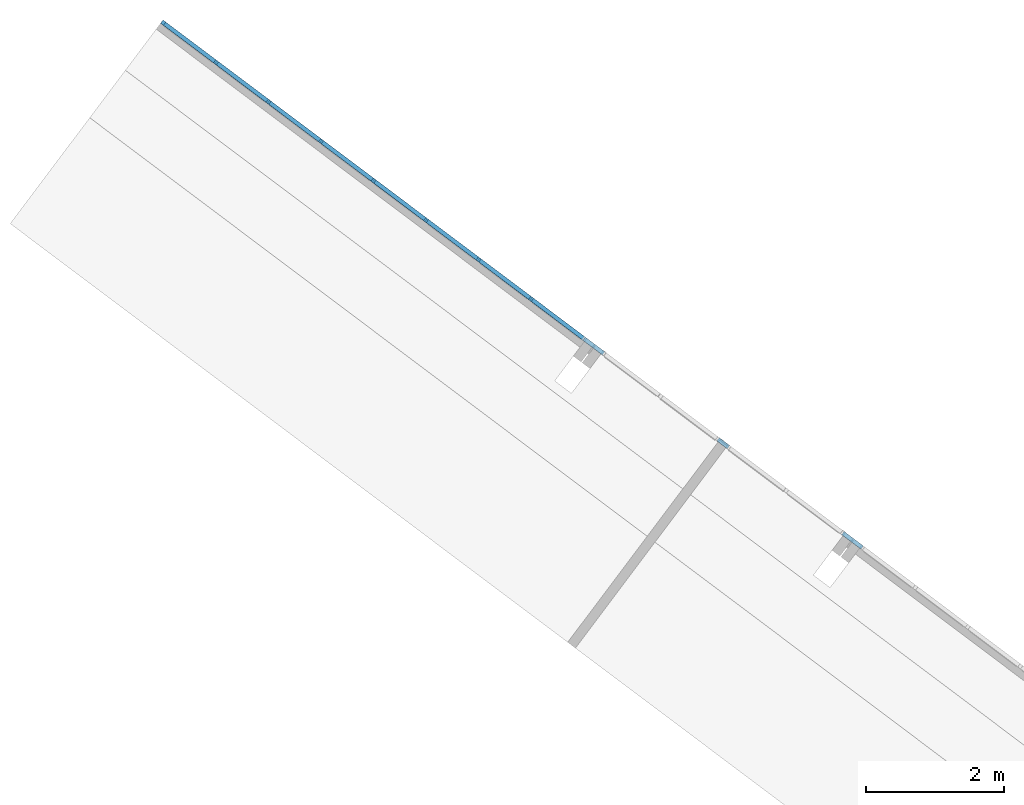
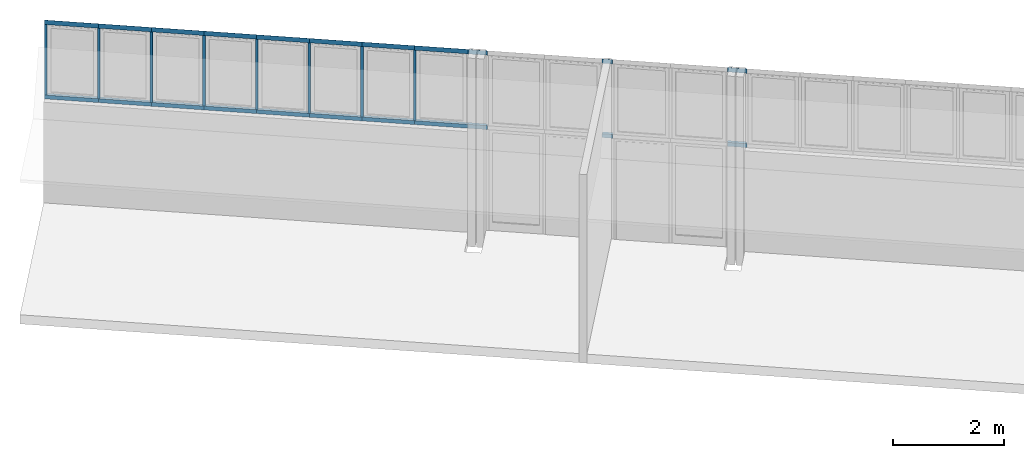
# One storey, part 3 of 18: 30 members, 1 element without a shape of its own.
"""IFC2X3 building model written with IfcOpenShell, lengths in metres."""

from ifc_helpers import new_model, entity, si_unit, converted_unit, derived_unit, direction, frame, frame_2d, origin, origin_2d_with_axis, place, context, subcontext, project, spatial, polyline, rectangle, outline, extrude, source, transform, mapped, material, type_object, type_shapes, element, aggregate, save


model = new_model("IFC2X3")

# Units and contexts
model_context = context("Model", 3, precision=1e-05, world=origin(), true_north=direction((6.123031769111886e-17, 1.0)))
body_context = subcontext(model_context, "Body", "Model", "MODEL_VIEW")
ifc_project = project(units=[si_unit("LENGTHUNIT", "METRE"), si_unit("AREAUNIT", "SQUARE_METRE"), si_unit("VOLUMEUNIT", "CUBIC_METRE"), converted_unit("PLANEANGLEUNIT", "DEGREE", entity("IfcRatioMeasure", 0.017453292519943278), si_unit("PLANEANGLEUNIT", "RADIAN"), dimensions=[0, 0, 0, 0, 0, 0, 0]), si_unit("MASSUNIT", "GRAM", prefix="KILO"), derived_unit("MASSDENSITYUNIT", [(si_unit("MASSUNIT", "GRAM", prefix="KILO"), 1), (si_unit("LENGTHUNIT", "METRE"), -3)]), derived_unit("IONCONCENTRATIONUNIT", [(si_unit("MASSUNIT", "GRAM", prefix="KILO"), 1), (si_unit("LENGTHUNIT", "METRE"), -3)]), derived_unit("MOMENTOFINERTIAUNIT", [(si_unit("LENGTHUNIT", "METRE"), 4)]), si_unit("TIMEUNIT", "SECOND"), si_unit("FREQUENCYUNIT", "HERTZ"), si_unit("THERMODYNAMICTEMPERATUREUNIT", "DEGREE_CELSIUS"), derived_unit("THERMALTRANSMITTANCEUNIT", [(si_unit("MASSUNIT", "GRAM", prefix="KILO"), 1), (si_unit("THERMODYNAMICTEMPERATUREUNIT", "KELVIN"), -1), (si_unit("TIMEUNIT", "SECOND"), -3)]), derived_unit("THERMALCONDUCTANCEUNIT", [(si_unit("MASSUNIT", "GRAM", prefix="KILO"), 1), (si_unit("THERMODYNAMICTEMPERATUREUNIT", "KELVIN"), -1), (si_unit("TIMEUNIT", "SECOND"), -3), (si_unit("LENGTHUNIT", "METRE"), 1)]), derived_unit("VOLUMETRICFLOWRATEUNIT", [(si_unit("LENGTHUNIT", "METRE"), 3), (si_unit("TIMEUNIT", "SECOND"), -1)]), derived_unit("MASSFLOWRATEUNIT", [(si_unit("MASSUNIT", "GRAM", prefix="KILO"), 1), (si_unit("TIMEUNIT", "SECOND"), -1)]), derived_unit("ROTATIONALFREQUENCYUNIT", [(si_unit("TIMEUNIT", "SECOND"), -1)]), si_unit("ELECTRICCURRENTUNIT", "AMPERE"), si_unit("ELECTRICVOLTAGEUNIT", "VOLT"), si_unit("POWERUNIT", "WATT"), si_unit("FORCEUNIT", "NEWTON", prefix="KILO"), si_unit("ILLUMINANCEUNIT", "LUX"), si_unit("LUMINOUSFLUXUNIT", "LUMEN"), si_unit("LUMINOUSINTENSITYUNIT", "CANDELA"), derived_unit("USERDEFINED", [(si_unit("MASSUNIT", "GRAM", prefix="KILO"), -1), (si_unit("LENGTHUNIT", "METRE"), -2), (si_unit("TIMEUNIT", "SECOND"), 3), (si_unit("LUMINOUSFLUXUNIT", "LUMEN"), 1)]), derived_unit("USERDEFINED", [(si_unit("MASSUNIT", "GRAM", prefix="KILO"), 1), (si_unit("TIMEUNIT", "SECOND"), -3), (si_unit("LENGTHUNIT", "METRE"), 3), (si_unit("ELECTRICCURRENTUNIT", "AMPERE"), -2)]), derived_unit("SOUNDPOWERUNIT", [(si_unit("MASSUNIT", "GRAM", prefix="KILO"), 1), (si_unit("TIMEUNIT", "SECOND"), -3), (si_unit("LENGTHUNIT", "METRE"), 2)]), derived_unit("SOUNDPRESSUREUNIT", [(si_unit("MASSUNIT", "GRAM", prefix="KILO"), 1), (si_unit("LENGTHUNIT", "METRE"), -1), (si_unit("TIMEUNIT", "SECOND"), -2)]), derived_unit("LINEARVELOCITYUNIT", [(si_unit("LENGTHUNIT", "METRE"), 1), (si_unit("TIMEUNIT", "SECOND"), -1)]), si_unit("PRESSUREUNIT", "PASCAL"), derived_unit("USERDEFINED", [(si_unit("MASSUNIT", "GRAM", prefix="KILO"), 1), (si_unit("LENGTHUNIT", "METRE"), -2), (si_unit("TIMEUNIT", "SECOND"), -2)]), derived_unit("LINEARFORCEUNIT", [(si_unit("MASSUNIT", "GRAM", prefix="KILO"), 1), (si_unit("TIMEUNIT", "SECOND"), -2)]), derived_unit("PLANARFORCEUNIT", [(si_unit("MASSUNIT", "GRAM", prefix="KILO"), 1), (si_unit("LENGTHUNIT", "METRE"), -1), (si_unit("TIMEUNIT", "SECOND"), -2)]), derived_unit("SPECIFICHEATCAPACITYUNIT", [(si_unit("THERMODYNAMICTEMPERATUREUNIT", "KELVIN"), -1), (si_unit("LENGTHUNIT", "METRE"), 2), (si_unit("TIMEUNIT", "SECOND"), -2)]), derived_unit("HEATINGVALUEUNIT", [(si_unit("LENGTHUNIT", "METRE"), 2), (si_unit("TIMEUNIT", "SECOND"), -2)]), derived_unit("VAPORPERMEABILITYUNIT", [(si_unit("LENGTHUNIT", "METRE"), -1), (si_unit("TIMEUNIT", "SECOND"), 1)]), derived_unit("DYNAMICVISCOSITYUNIT", [(si_unit("MASSUNIT", "GRAM", prefix="KILO"), 1), (si_unit("TIMEUNIT", "SECOND"), -1), (si_unit("LENGTHUNIT", "METRE"), -1)]), derived_unit("THERMALEXPANSIONCOEFFICIENTUNIT", [(si_unit("THERMODYNAMICTEMPERATUREUNIT", "KELVIN"), -1)]), derived_unit("MODULUSOFELASTICITYUNIT", [(si_unit("MASSUNIT", "GRAM", prefix="KILO"), 1), (si_unit("LENGTHUNIT", "METRE"), -1), (si_unit("TIMEUNIT", "SECOND"), -2)]), derived_unit("ISOTHERMALMOISTURECAPACITYUNIT", [(si_unit("LENGTHUNIT", "METRE"), 3), (si_unit("MASSUNIT", "GRAM", prefix="KILO"), -1)]), derived_unit("MOISTUREDIFFUSIVITYUNIT", [(si_unit("TIMEUNIT", "SECOND"), -1), (si_unit("LENGTHUNIT", "METRE"), 2)])], contexts=[model_context])

# Site, building, storey
site_placement = place(None, frame((0.0, 0.0, 235.0), z_axis=(0.0, 0.0, 1.0), x_axis=(-0.7996477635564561, 0.6004693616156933, 0.0)))
site = spatial("IfcSite", under=ifc_project, at=site_placement, Name="Default", CompositionType="ELEMENT")
building_placement = place(site_placement, origin())
building = spatial("IfcBuilding", under=site, at=building_placement, CompositionType="ELEMENT")
storey_placement = place(building_placement, frame((0.0, 0.0, -4.459999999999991)))
storey = spatial("IfcBuildingStorey", under=building, at=storey_placement, Name="PS1- Vestuari", CompositionType="ELEMENT", Elevation=-4.459999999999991)

# Curtain wall, members
curtain_wall_type = type_object("IfcCurtainWallType", Name="Muro cortina:MC- EXT- AL6", PredefinedType="NOTDEFINED")
curtain_wall_placement = place(storey_placement, frame((0.0, 0.0, 4.459999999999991)))
curtain_wall = element("IfcCurtainWall", 1, at=curtain_wall_placement, inside=storey, type_object=curtain_wall_type, Name="Muro cortina:MC- EXT- AL6", ObjectType="Muro cortina:MC- EXT- AL6")
ifc_material = material(Name="_Alumini- T1- Perfil")
member_type_1 = type_object("IfcMemberType", Name="Montante rectangular:MC- Alu- 140x52,5 cm- Fa pista- Superior", PredefinedType="MULLION", material=ifc_material)
shared_shape_1 = source(origin(), body_context, "Body", "SweptSolid", [
    extrude(outline(polyline([(-0.03933333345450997, -0.04916666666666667), (0.02066666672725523, -0.04916666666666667), (0.020666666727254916, 0.048333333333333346), (0.018666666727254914, 0.04833333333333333), (0.018666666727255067, 0.00083333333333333), (-0.03933333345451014, 0.00083333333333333), (-0.03933333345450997, -0.04916666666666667)])), frame((-0.048333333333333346, -0.03933333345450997, -0.9850000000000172), z_axis=(0.0, 0.0, 1.0), x_axis=(0.0, -1.0, 0.0)), (0.0, 0.0, 1.0), 0.9850000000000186),
])
type_shapes(member_type_1, [shared_shape_1])
member_1_placement = place(curtain_wall_placement, frame((74.44514768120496, -40.46519175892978, -0.5199999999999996), z_axis=(1.0, 0.0, 0.0), x_axis=(0.0, 0.0, 1.0)))
member_1 = element("IfcMember", 2, at=member_1_placement, type_object=member_type_1, material=ifc_material, Name="Montante rectangular:MC- Alu- 140x52,5 cm- Fa pista- Superior", ObjectType="Montante rectangular:MC- Alu- 140x52,5 cm- Fa pista- Superior", context=body_context, shape_type="MappedRepresentation", body=[
    mapped(shared_shape_1, transform((0.0, 0.0, 0.0), scale=1.0)),
])
member_type_2 = type_object("IfcMemberType", Name="Montante rectangular:MC- Alu- 140x52,5 cm- Fa pista- Superior", PredefinedType="MULLION", material=ifc_material)
shared_shape_2 = source(origin(), body_context, "Body", "SweptSolid", [
    extrude(outline(polyline([(-0.03933333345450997, -0.04916666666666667), (0.02066666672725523, -0.04916666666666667), (0.020666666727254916, 0.048333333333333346), (0.018666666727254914, 0.04833333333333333), (0.018666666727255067, 0.00083333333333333), (-0.03933333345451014, 0.00083333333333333), (-0.03933333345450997, -0.04916666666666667)])), frame((-0.048333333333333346, -0.03933333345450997, -0.9659999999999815), z_axis=(0.0, 0.0, 1.0), x_axis=(0.0, -1.0, 0.0)), (0.0, 0.0, 1.0), 0.9659999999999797),
])
type_shapes(member_type_2, [shared_shape_2])
member_2_placement = place(curtain_wall_placement, frame((67.73614768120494, -40.46519175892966, -0.5199999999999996), z_axis=(1.0, 0.0, 0.0), x_axis=(0.0, 0.0, 1.0)))
member_2 = element("IfcMember", 3, at=member_2_placement, type_object=member_type_2, material=ifc_material, Name="Montante rectangular:MC- Alu- 140x52,5 cm- Fa pista- Superior", ObjectType="Montante rectangular:MC- Alu- 140x52,5 cm- Fa pista- Superior", context=body_context, shape_type="MappedRepresentation", body=[
    mapped(shared_shape_2, transform((0.0, 0.0, 0.0), scale=1.0)),
])
member_type_3 = type_object("IfcMemberType", Name="Montante rectangular:MC- Alu- 50x60 cm- Fa pista- Centre", PredefinedType="MULLION", material=ifc_material)
shared_shape_3 = source(origin(), body_context, "Body", "SweptSolid", [
    extrude(rectangle(XDim=0.0600000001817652, YDim=0.05, at=frame_2d((8.673617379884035e-18, 0.0), x_axis=(1.0, 0.0))), frame((0.0, -0.030000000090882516, -1.5474999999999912), z_axis=(0.0, 0.0, 1.0), x_axis=(0.0, -1.0, 0.0)), (0.0, 0.0, 1.0), 1.5474999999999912),
])
type_shapes(member_type_3, [shared_shape_3])
member_3_placement = place(curtain_wall_placement, frame((67.73614768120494, -40.465191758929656, -2.1649999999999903), z_axis=(0.0, 0.0, -1.0), x_axis=(1.0, 0.0, 0.0)))
member_3 = element("IfcMember", 4, at=member_3_placement, type_object=member_type_3, material=ifc_material, Name="Montante rectangular:MC- Alu- 50x60 cm- Fa pista- Centre", ObjectType="Montante rectangular:MC- Alu- 50x60 cm- Fa pista- Centre", context=body_context, shape_type="MappedRepresentation", body=[
    mapped(shared_shape_3, transform((0.0, 0.0, 0.0), scale=1.0)),
])
member_4_placement = place(curtain_wall_placement, frame((68.69014768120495, -40.46519175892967, -2.1649999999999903), z_axis=(0.0, 0.0, -1.0), x_axis=(1.0, 0.0, 0.0)))
member_4 = element("IfcMember", 5, at=member_4_placement, type_object=member_type_3, material=ifc_material, Name="Montante rectangular:MC- Alu- 50x60 cm- Fa pista- Centre", ObjectType="Montante rectangular:MC- Alu- 50x60 cm- Fa pista- Centre", context=body_context, shape_type="MappedRepresentation", body=[
    mapped(shared_shape_3, transform((0.0, 0.0, 0.0), scale=1.0)),
])
member_5_placement = place(curtain_wall_placement, frame((69.64414768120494, -40.465191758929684, -2.1649999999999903), z_axis=(0.0, 0.0, -1.0), x_axis=(1.0, 0.0, 0.0)))
member_5 = element("IfcMember", 6, at=member_5_placement, type_object=member_type_3, material=ifc_material, Name="Montante rectangular:MC- Alu- 50x60 cm- Fa pista- Centre", ObjectType="Montante rectangular:MC- Alu- 50x60 cm- Fa pista- Centre", context=body_context, shape_type="MappedRepresentation", body=[
    mapped(shared_shape_3, transform((0.0, 0.0, 0.0), scale=1.0)),
])
member_type_4 = type_object("IfcMemberType", Name="Montante rectangular:MC- Alu- 140x52,5 cm- Fa pista- Superior", PredefinedType="MULLION", material=ifc_material)
shared_shape_4 = source(origin(), body_context, "Body", "SweptSolid", [
    extrude(outline(polyline([(-0.03933333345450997, -0.04916666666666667), (0.02066666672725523, -0.04916666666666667), (0.020666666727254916, 0.048333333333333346), (0.018666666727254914, 0.04833333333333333), (0.018666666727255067, 0.00083333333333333), (-0.03933333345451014, 0.00083333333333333), (-0.03933333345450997, -0.04916666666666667)])), frame((-0.048333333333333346, -0.03933333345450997, -0.9540000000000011), z_axis=(0.0, 0.0, 1.0), x_axis=(0.0, -1.0, 0.0)), (0.0, 0.0, 1.0), 0.9539999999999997),
])
type_shapes(member_type_4, [shared_shape_4])
member_6_placement = place(curtain_wall_placement, frame((68.69014768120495, -40.46519175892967, -0.5199999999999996), z_axis=(1.0, 0.0, 0.0), x_axis=(0.0, 0.0, 1.0)))
member_6 = element("IfcMember", 7, at=member_6_placement, type_object=member_type_4, material=ifc_material, Name="Montante rectangular:MC- Alu- 140x52,5 cm- Fa pista- Superior", ObjectType="Montante rectangular:MC- Alu- 140x52,5 cm- Fa pista- Superior", context=body_context, shape_type="MappedRepresentation", body=[
    mapped(shared_shape_4, transform((0.0, 0.0, 0.0), scale=1.0)),
])
member_7_placement = place(curtain_wall_placement, frame((69.64414768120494, -40.465191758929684, -0.5199999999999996), z_axis=(1.0, 0.0, 0.0), x_axis=(0.0, 0.0, 1.0)))
member_7 = element("IfcMember", 8, at=member_7_placement, type_object=member_type_4, material=ifc_material, Name="Montante rectangular:MC- Alu- 140x52,5 cm- Fa pista- Superior", ObjectType="Montante rectangular:MC- Alu- 140x52,5 cm- Fa pista- Superior", context=body_context, shape_type="MappedRepresentation", body=[
    mapped(shared_shape_4, transform((0.0, 0.0, 0.0), scale=1.0)),
])
member_type_5 = type_object("IfcMemberType", Name="Montante rectangular:MC- Alu- 52x80 cm- Fa pista- inferior", PredefinedType="MULLION", material=ifc_material)
shared_shape_5 = source(origin(), body_context, "Body", "SweptSolid", [
    extrude(rectangle(XDim=0.06000000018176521, YDim=0.085, at=origin_2d_with_axis()), frame((-0.0425, -0.030000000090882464, -0.9539999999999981), z_axis=(0.0, 0.0, 1.0), x_axis=(0.0, -1.0, 0.0)), (0.0, 0.0, 1.0), 0.9539999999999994),
])
type_shapes(member_type_5, [shared_shape_5])
member_8_placement = place(curtain_wall_placement, frame((67.73614768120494, -40.465191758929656, -2.2499999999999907), z_axis=(-1.0, 0.0, 0.0), x_axis=(0.0, 0.0, -1.0)))
member_8 = element("IfcMember", 9, at=member_8_placement, type_object=member_type_5, material=ifc_material, Name="Montante rectangular:MC- Alu- 52x80 cm- Fa pista- inferior", ObjectType="Montante rectangular:MC- Alu- 52x80 cm- Fa pista- inferior", context=body_context, shape_type="MappedRepresentation", body=[
    mapped(shared_shape_5, transform((0.0, 0.0, 0.0), scale=1.0)),
])
member_9_placement = place(curtain_wall_placement, frame((68.69014768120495, -40.46519175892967, -2.2499999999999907), z_axis=(-1.0, 0.0, 0.0), x_axis=(0.0, 0.0, -1.0)))
member_9 = element("IfcMember", 10, at=member_9_placement, type_object=member_type_5, material=ifc_material, Name="Montante rectangular:MC- Alu- 52x80 cm- Fa pista- inferior", ObjectType="Montante rectangular:MC- Alu- 52x80 cm- Fa pista- inferior", context=body_context, shape_type="MappedRepresentation", body=[
    mapped(shared_shape_5, transform((0.0, 0.0, 0.0), scale=1.0)),
])
member_10_placement = place(curtain_wall_placement, frame((69.64414768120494, -40.465191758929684, -2.2499999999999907), z_axis=(-1.0, 0.0, 0.0), x_axis=(0.0, 0.0, -1.0)))
member_10 = element("IfcMember", 11, at=member_10_placement, type_object=member_type_5, material=ifc_material, Name="Montante rectangular:MC- Alu- 52x80 cm- Fa pista- inferior", ObjectType="Montante rectangular:MC- Alu- 52x80 cm- Fa pista- inferior", context=body_context, shape_type="MappedRepresentation", body=[
    mapped(shared_shape_5, transform((0.0, 0.0, 0.0), scale=1.0)),
])
member_11_placement = place(curtain_wall_placement, frame((72.50614768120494, -40.46519175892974, -2.249999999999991), z_axis=(-1.0, 0.0, 0.0), x_axis=(0.0, 0.0, -1.0)))
member_11 = element("IfcMember", 12, at=member_11_placement, type_object=member_type_5, material=ifc_material, Name="Montante rectangular:MC- Alu- 52x80 cm- Fa pista- inferior", ObjectType="Montante rectangular:MC- Alu- 52x80 cm- Fa pista- inferior", context=body_context, shape_type="MappedRepresentation", body=[
    mapped(shared_shape_5, transform((0.0, 0.0, 0.0), scale=1.0)),
])
member_12_placement = place(curtain_wall_placement, frame((71.55214768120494, -40.46519175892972, -2.249999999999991), z_axis=(-1.0, 0.0, 0.0), x_axis=(0.0, 0.0, -1.0)))
member_12 = element("IfcMember", 13, at=member_12_placement, type_object=member_type_5, material=ifc_material, Name="Montante rectangular:MC- Alu- 52x80 cm- Fa pista- inferior", ObjectType="Montante rectangular:MC- Alu- 52x80 cm- Fa pista- inferior", context=body_context, shape_type="MappedRepresentation", body=[
    mapped(shared_shape_5, transform((0.0, 0.0, 0.0), scale=1.0)),
])
member_13_placement = place(curtain_wall_placement, frame((70.59814768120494, -40.465191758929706, -2.249999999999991), z_axis=(-1.0, 0.0, 0.0), x_axis=(0.0, 0.0, -1.0)))
member_13 = element("IfcMember", 14, at=member_13_placement, type_object=member_type_5, material=ifc_material, Name="Montante rectangular:MC- Alu- 52x80 cm- Fa pista- inferior", ObjectType="Montante rectangular:MC- Alu- 52x80 cm- Fa pista- inferior", context=body_context, shape_type="MappedRepresentation", body=[
    mapped(shared_shape_5, transform((0.0, 0.0, 0.0), scale=1.0)),
])
member_type_6 = type_object("IfcMemberType", Name="Montante rectangular:MC- Alu- 50x60 cm- Fa pista- Centre", PredefinedType="MULLION", material=ifc_material)
shared_shape_6 = source(origin(), body_context, "Body", "SweptSolid", [
    extrude(rectangle(XDim=0.0600000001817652, YDim=0.05, at=frame_2d((8.673617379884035e-18, 0.0), x_axis=(1.0, 0.0))), frame((0.0, -0.030000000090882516, -1.5474999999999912), z_axis=(0.0, 0.0, 1.0), x_axis=(0.0, -1.0, 0.0)), (0.0, 0.0, 1.0), 1.5474999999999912),
])
type_shapes(member_type_6, [shared_shape_6])
member_14_placement = place(curtain_wall_placement, frame((73.46014768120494, -40.465191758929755, -2.164999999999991), z_axis=(0.0, 0.0, -1.0), x_axis=(1.0, 0.0, 0.0)))
member_14 = element("IfcMember", 15, at=member_14_placement, type_object=member_type_6, material=ifc_material, Name="Montante rectangular:MC- Alu- 50x60 cm- Fa pista- Centre", ObjectType="Montante rectangular:MC- Alu- 50x60 cm- Fa pista- Centre", context=body_context, shape_type="MappedRepresentation", body=[
    mapped(shared_shape_6, transform((0.0, 0.0, 0.0), scale=1.0)),
])
member_15_placement = place(curtain_wall_placement, frame((72.50614768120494, -40.46519175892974, -2.164999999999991), z_axis=(0.0, 0.0, -1.0), x_axis=(1.0, 0.0, 0.0)))
member_15 = element("IfcMember", 16, at=member_15_placement, type_object=member_type_6, material=ifc_material, Name="Montante rectangular:MC- Alu- 50x60 cm- Fa pista- Centre", ObjectType="Montante rectangular:MC- Alu- 50x60 cm- Fa pista- Centre", context=body_context, shape_type="MappedRepresentation", body=[
    mapped(shared_shape_6, transform((0.0, 0.0, 0.0), scale=1.0)),
])
member_16_placement = place(curtain_wall_placement, frame((71.55214768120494, -40.46519175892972, -2.164999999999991), z_axis=(0.0, 0.0, -1.0), x_axis=(1.0, 0.0, 0.0)))
member_16 = element("IfcMember", 17, at=member_16_placement, type_object=member_type_6, material=ifc_material, Name="Montante rectangular:MC- Alu- 50x60 cm- Fa pista- Centre", ObjectType="Montante rectangular:MC- Alu- 50x60 cm- Fa pista- Centre", context=body_context, shape_type="MappedRepresentation", body=[
    mapped(shared_shape_6, transform((0.0, 0.0, 0.0), scale=1.0)),
])
member_17_placement = place(curtain_wall_placement, frame((70.59814768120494, -40.465191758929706, -2.164999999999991), z_axis=(0.0, 0.0, -1.0), x_axis=(1.0, 0.0, 0.0)))
member_17 = element("IfcMember", 18, at=member_17_placement, type_object=member_type_6, material=ifc_material, Name="Montante rectangular:MC- Alu- 50x60 cm- Fa pista- Centre", ObjectType="Montante rectangular:MC- Alu- 50x60 cm- Fa pista- Centre", context=body_context, shape_type="MappedRepresentation", body=[
    mapped(shared_shape_6, transform((0.0, 0.0, 0.0), scale=1.0)),
])
member_type_7 = type_object("IfcMemberType", Name="Montante rectangular:MC- Alu- 140x52,5 cm- Fa pista- Superior", PredefinedType="MULLION", material=ifc_material)
shared_shape_7 = source(origin(), body_context, "Body", "SweptSolid", [
    extrude(outline(polyline([(-0.03933333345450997, -0.04916666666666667), (0.02066666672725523, -0.04916666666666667), (0.020666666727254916, 0.048333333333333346), (0.018666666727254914, 0.04833333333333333), (0.018666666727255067, 0.00083333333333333), (-0.03933333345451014, 0.00083333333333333), (-0.03933333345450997, -0.04916666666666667)])), frame((-0.048333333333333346, -0.03933333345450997, -0.9540000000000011), z_axis=(0.0, 0.0, 1.0), x_axis=(0.0, -1.0, 0.0)), (0.0, 0.0, 1.0), 0.9539999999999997),
])
type_shapes(member_type_7, [shared_shape_7])
member_18_placement = place(curtain_wall_placement, frame((73.46014768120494, -40.465191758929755, -0.52), z_axis=(1.0, 0.0, 0.0), x_axis=(0.0, 0.0, 1.0)))
member_18 = element("IfcMember", 19, at=member_18_placement, type_object=member_type_7, material=ifc_material, Name="Montante rectangular:MC- Alu- 140x52,5 cm- Fa pista- Superior", ObjectType="Montante rectangular:MC- Alu- 140x52,5 cm- Fa pista- Superior", context=body_context, shape_type="MappedRepresentation", body=[
    mapped(shared_shape_7, transform((0.0, 0.0, 0.0), scale=1.0)),
])
member_19_placement = place(curtain_wall_placement, frame((72.50614768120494, -40.46519175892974, -0.52), z_axis=(1.0, 0.0, 0.0), x_axis=(0.0, 0.0, 1.0)))
member_19 = element("IfcMember", 20, at=member_19_placement, type_object=member_type_7, material=ifc_material, Name="Montante rectangular:MC- Alu- 140x52,5 cm- Fa pista- Superior", ObjectType="Montante rectangular:MC- Alu- 140x52,5 cm- Fa pista- Superior", context=body_context, shape_type="MappedRepresentation", body=[
    mapped(shared_shape_7, transform((0.0, 0.0, 0.0), scale=1.0)),
])
member_20_placement = place(curtain_wall_placement, frame((71.55214768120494, -40.46519175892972, -0.52), z_axis=(1.0, 0.0, 0.0), x_axis=(0.0, 0.0, 1.0)))
member_20 = element("IfcMember", 21, at=member_20_placement, type_object=member_type_7, material=ifc_material, Name="Montante rectangular:MC- Alu- 140x52,5 cm- Fa pista- Superior", ObjectType="Montante rectangular:MC- Alu- 140x52,5 cm- Fa pista- Superior", context=body_context, shape_type="MappedRepresentation", body=[
    mapped(shared_shape_7, transform((0.0, 0.0, 0.0), scale=1.0)),
])
member_21_placement = place(curtain_wall_placement, frame((70.59814768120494, -40.465191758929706, -0.52), z_axis=(1.0, 0.0, 0.0), x_axis=(0.0, 0.0, 1.0)))
member_21 = element("IfcMember", 22, at=member_21_placement, type_object=member_type_7, material=ifc_material, Name="Montante rectangular:MC- Alu- 140x52,5 cm- Fa pista- Superior", ObjectType="Montante rectangular:MC- Alu- 140x52,5 cm- Fa pista- Superior", context=body_context, shape_type="MappedRepresentation", body=[
    mapped(shared_shape_7, transform((0.0, 0.0, 0.0), scale=1.0)),
])
member_type_8 = type_object("IfcMemberType", Name="Montante rectangular:MC- Alu- 52x80 cm- Fa pista- inferior", PredefinedType="MULLION", material=ifc_material)
shared_shape_8 = source(origin(), body_context, "Body", "SweptSolid", [
    extrude(rectangle(XDim=0.06000000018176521, YDim=0.085, at=origin_2d_with_axis()), frame((-0.0425, -0.030000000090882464, -0.98500000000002), z_axis=(0.0, 0.0, 1.0), x_axis=(0.0, -1.0, 0.0)), (0.0, 0.0, 1.0), 0.9850000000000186),
])
type_shapes(member_type_8, [shared_shape_8])
member_22_placement = place(curtain_wall_placement, frame((73.46014768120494, -40.465191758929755, -2.249999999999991), z_axis=(-1.0, 0.0, 0.0), x_axis=(0.0, 0.0, -1.0)))
member_22 = element("IfcMember", 23, at=member_22_placement, type_object=member_type_8, material=ifc_material, Name="Montante rectangular:MC- Alu- 52x80 cm- Fa pista- inferior", ObjectType="Montante rectangular:MC- Alu- 52x80 cm- Fa pista- inferior", context=body_context, shape_type="MappedRepresentation", body=[
    mapped(shared_shape_8, transform((0.0, 0.0, 0.0), scale=1.0)),
])
member_type_9 = type_object("IfcMemberType", Name="Montante rectangular:MC- Alu- 140x52,5 cm- Fa pista- Superior", PredefinedType="MULLION", material=ifc_material)
shared_shape_9 = source(origin(), body_context, "Body", "SweptSolid", [
    extrude(outline(polyline([(-0.03933333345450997, -0.04916666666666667), (0.02066666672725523, -0.04916666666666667), (0.020666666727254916, 0.048333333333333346), (0.018666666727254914, 0.04833333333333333), (0.018666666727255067, 0.00083333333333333), (-0.03933333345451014, 0.00083333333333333), (-0.03933333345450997, -0.04916666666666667)])), frame((-0.048333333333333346, -0.03933333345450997, -0.190000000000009), z_axis=(0.0, 0.0, 1.0), x_axis=(0.0, -1.0, 0.0)), (0.0, 0.0, 1.0), 0.19000000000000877),
])
type_shapes(member_type_9, [shared_shape_9])
member_23_placement = place(curtain_wall_placement, frame((64.34014768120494, -40.46519175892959, -0.52), z_axis=(1.0, 0.0, 0.0), x_axis=(0.0, 0.0, 1.0)))
member_23 = element("IfcMember", 24, at=member_23_placement, type_object=member_type_9, material=ifc_material, Name="Montante rectangular:MC- Alu- 140x52,5 cm- Fa pista- Superior", ObjectType="Montante rectangular:MC- Alu- 140x52,5 cm- Fa pista- Superior", context=body_context, shape_type="MappedRepresentation", body=[
    mapped(shared_shape_9, transform((0.0, 0.0, 0.0), scale=1.0)),
])
member_type_10 = type_object("IfcMemberType", Name="Montante rectangular:MC- Alu- 52x80 cm- Fa pista- inferior", PredefinedType="MULLION", material=ifc_material)
shared_shape_10 = source(origin(), body_context, "Body", "SweptSolid", [
    extrude(rectangle(XDim=0.06000000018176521, YDim=0.085, at=origin_2d_with_axis()), frame((-0.0425, -0.030000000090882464, -0.19000000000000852), z_axis=(0.0, 0.0, 1.0), x_axis=(0.0, -1.0, 0.0)), (0.0, 0.0, 1.0), 0.19000000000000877),
])
type_shapes(member_type_10, [shared_shape_10])
member_24_placement = place(curtain_wall_placement, frame((64.15014768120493, -40.465191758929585, -2.249999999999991), z_axis=(-1.0, 0.0, 0.0), x_axis=(0.0, 0.0, -1.0)))
member_24 = element("IfcMember", 25, at=member_24_placement, type_object=member_type_10, material=ifc_material, Name="Montante rectangular:MC- Alu- 52x80 cm- Fa pista- inferior", ObjectType="Montante rectangular:MC- Alu- 52x80 cm- Fa pista- inferior", context=body_context, shape_type="MappedRepresentation", body=[
    mapped(shared_shape_10, transform((0.0, 0.0, 0.0), scale=1.0)),
])
member_type_11 = type_object("IfcMemberType", Name="Montante rectangular:MC- Alu- 140x52,5 cm- Fa pista- Superior", PredefinedType="MULLION", material=ifc_material)
shared_shape_11 = source(origin(), body_context, "Body", "SweptSolid", [
    extrude(outline(polyline([(-0.03933333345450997, -0.04916666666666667), (0.02066666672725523, -0.04916666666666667), (0.020666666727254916, 0.048333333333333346), (0.018666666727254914, 0.04833333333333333), (0.018666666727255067, 0.00083333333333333), (-0.03933333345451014, 0.00083333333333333), (-0.03933333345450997, -0.04916666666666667)])), frame((-0.048333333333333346, -0.03933333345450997, -0.35000000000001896), z_axis=(0.0, 0.0, 1.0), x_axis=(0.0, -1.0, 0.0)), (0.0, 0.0, 1.0), 0.35000000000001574),
])
type_shapes(member_type_11, [shared_shape_11])
member_25_placement = place(curtain_wall_placement, frame((62.07014768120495, -40.46519175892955, -0.52), z_axis=(1.0, 0.0, 0.0), x_axis=(0.0, 0.0, 1.0)))
member_25 = element("IfcMember", 26, at=member_25_placement, type_object=member_type_11, material=ifc_material, Name="Montante rectangular:MC- Alu- 140x52,5 cm- Fa pista- Superior", ObjectType="Montante rectangular:MC- Alu- 140x52,5 cm- Fa pista- Superior", context=body_context, shape_type="MappedRepresentation", body=[
    mapped(shared_shape_11, transform((0.0, 0.0, 0.0), scale=1.0)),
])
member_26_placement = place(curtain_wall_placement, frame((66.77014768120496, -40.465191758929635, -0.52), z_axis=(1.0, 0.0, 0.0), x_axis=(0.0, 0.0, 1.0)))
member_26 = element("IfcMember", 27, at=member_26_placement, type_object=member_type_11, material=ifc_material, Name="Montante rectangular:MC- Alu- 140x52,5 cm- Fa pista- Superior", ObjectType="Montante rectangular:MC- Alu- 140x52,5 cm- Fa pista- Superior", context=body_context, shape_type="MappedRepresentation", body=[
    mapped(shared_shape_11, transform((0.0, 0.0, 0.0), scale=1.0)),
])
member_type_12 = type_object("IfcMemberType", Name="Montante rectangular:MC- Alu- 52x80 cm- Fa pista- inferior", PredefinedType="MULLION", material=ifc_material)
shared_shape_12 = source(origin(), body_context, "Body", "SweptSolid", [
    extrude(rectangle(XDim=0.06000000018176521, YDim=0.085, at=origin_2d_with_axis()), frame((-0.0425, -0.030000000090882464, -0.35000000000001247), z_axis=(0.0, 0.0, 1.0), x_axis=(0.0, -1.0, 0.0)), (0.0, 0.0, 1.0), 0.35000000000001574),
])
type_shapes(member_type_12, [shared_shape_12])
member_27_placement = place(curtain_wall_placement, frame((61.720147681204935, -40.46519175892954, -2.249999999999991), z_axis=(-1.0, 0.0, 0.0), x_axis=(0.0, 0.0, -1.0)))
member_27 = element("IfcMember", 28, at=member_27_placement, type_object=member_type_12, material=ifc_material, Name="Montante rectangular:MC- Alu- 52x80 cm- Fa pista- inferior", ObjectType="Montante rectangular:MC- Alu- 52x80 cm- Fa pista- inferior", context=body_context, shape_type="MappedRepresentation", body=[
    mapped(shared_shape_12, transform((0.0, 0.0, 0.0), scale=1.0)),
])
member_28_placement = place(curtain_wall_placement, frame((66.42014768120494, -40.46519175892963, -2.249999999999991), z_axis=(-1.0, 0.0, 0.0), x_axis=(0.0, 0.0, -1.0)))
member_28 = element("IfcMember", 29, at=member_28_placement, type_object=member_type_12, material=ifc_material, Name="Montante rectangular:MC- Alu- 52x80 cm- Fa pista- inferior", ObjectType="Montante rectangular:MC- Alu- 52x80 cm- Fa pista- inferior", context=body_context, shape_type="MappedRepresentation", body=[
    mapped(shared_shape_12, transform((0.0, 0.0, 0.0), scale=1.0)),
])
member_type_13 = type_object("IfcMemberType", Name="Montante rectangular:MC- Alu- 52x80 cm- Fa pista- inferior", PredefinedType="MULLION", material=ifc_material)
shared_shape_13 = source(origin(), body_context, "Body", "SweptSolid", [
    extrude(rectangle(XDim=0.06000000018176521, YDim=0.085, at=origin_2d_with_axis()), frame((-0.0425, -0.030000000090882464, -0.9659999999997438), z_axis=(0.0, 0.0, 1.0), x_axis=(0.0, -1.0, 0.0)), (0.0, 0.0, 1.0), 0.9659999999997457),
])
type_shapes(member_type_13, [shared_shape_13])
member_29_placement = place(curtain_wall_placement, frame((66.77014768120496, -40.465191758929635, -2.249999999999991), z_axis=(-1.0, 0.0, 0.0), x_axis=(0.0, 0.0, -1.0)))
member_29 = element("IfcMember", 30, at=member_29_placement, type_object=member_type_13, material=ifc_material, Name="Montante rectangular:MC- Alu- 52x80 cm- Fa pista- inferior", ObjectType="Montante rectangular:MC- Alu- 52x80 cm- Fa pista- inferior", context=body_context, shape_type="MappedRepresentation", body=[
    mapped(shared_shape_13, transform((0.0, 0.0, 0.0), scale=1.0)),
])
member_type_14 = type_object("IfcMemberType", Name="Montante rectangular:MC- Alu- 50x60 cm- Fa pista- Centre", PredefinedType="MULLION", material=ifc_material)
shared_shape_14 = source(origin(), body_context, "Body", "SweptSolid", [
    extrude(rectangle(XDim=0.06000000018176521, YDim=0.05, at=frame_2d((3.469446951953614e-18, 0.0), x_axis=(1.0, 0.0))), frame((-0.025, -0.030000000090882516, -1.5474999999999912), z_axis=(0.0, 0.0, 1.0), x_axis=(0.0, -1.0, 0.0)), (0.0, 0.0, 1.0), 1.5474999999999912),
])
type_shapes(member_type_14, [shared_shape_14])
member_30_placement = place(curtain_wall_placement, frame((74.44514768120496, -40.46519175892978, -2.164999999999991), z_axis=(0.0, 0.0, -1.0), x_axis=(1.0, 0.0, 0.0)))
member_30 = element("IfcMember", 31, at=member_30_placement, type_object=member_type_14, material=ifc_material, Name="Montante rectangular:MC- Alu- 50x60 cm- Fa pista- Centre", ObjectType="Montante rectangular:MC- Alu- 50x60 cm- Fa pista- Centre", context=body_context, shape_type="MappedRepresentation", body=[
    mapped(shared_shape_14, transform((0.0, 0.0, 0.0), scale=1.0)),
])
aggregate(curtain_wall, [member_1, member_2, member_3, member_6, member_4, member_7, member_5, member_8, member_9, member_10, member_14, member_18, member_22, member_15, member_11, member_19, member_16, member_12, member_20, member_17, member_13, member_21, member_23, member_24, member_25, member_27, member_30, member_28, member_26, member_29])

save(model, "model.ifc")
